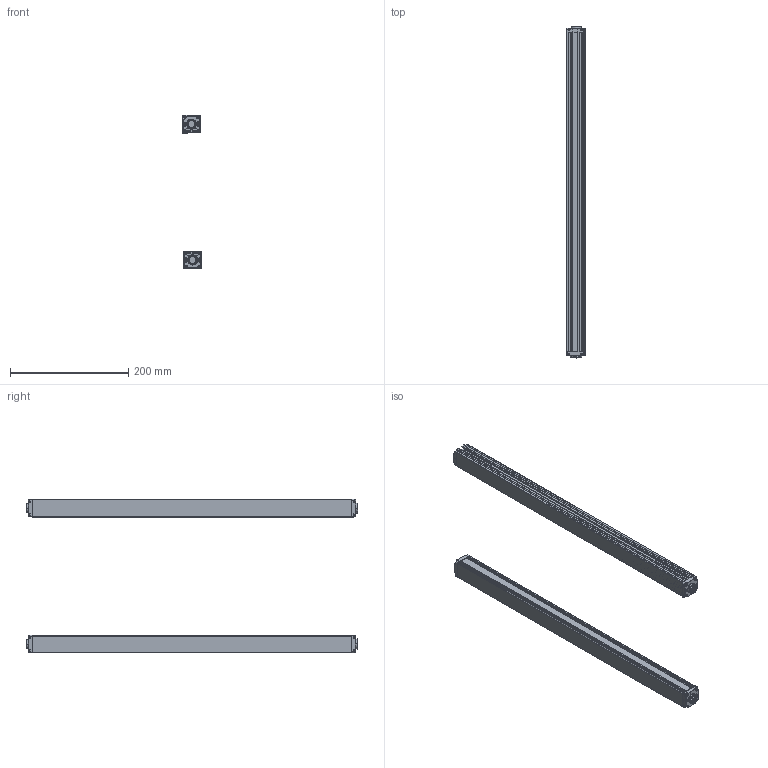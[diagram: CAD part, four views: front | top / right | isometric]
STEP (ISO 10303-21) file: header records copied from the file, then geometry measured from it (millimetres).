
FILE_DESCRIPTION (( 'STEP AP203' ), '1' );
FILE_NAME ('ZDA5210-540.STEP', '2022-08-30T03:53:01', ( 'Windows 蚚誧' ), ( 'Organization' ), 'SwSTEP 2.0', 'SolidWorks 2020', '' );
FILE_SCHEMA (( 'CONFIG_CONTROL_DESIGN' ));
Length unit declared in the file: millimetre
Products named in the file (5): 錨璃8 - 萵掛 (2); 錨璃10; ZDA5210-540; 錨璃1; 錨璃8
Assembly tree (8 placements, depth 2):
  ZDA5210-540
    錨璃1  x2
    錨璃8  x2
    錨璃8 - 萵掛 (2)  x2
    錨璃10  x2
Bounding box: 32.36 x 561.4 x 260.35 mm (x, y, z)
Volume: 348091.1 mm3; surface area: 369701.8 mm2
Topology: 8 solids, 8 shells, 1032 faces, 2690 edges, 1668 vertices
Faces by surface type: plane 464, cylinder 310, cone 120, bspline 58, torus 48, sphere 32
Entity records: 17901 total; most frequent: CARTESIAN_POINT 4731, ORIENTED_EDGE 2666, DIRECTION 2616, EDGE_CURVE 1333, AXIS2_PLACEMENT_3D 894, VERTEX_POINT 834, LINE 828, VECTOR 828
